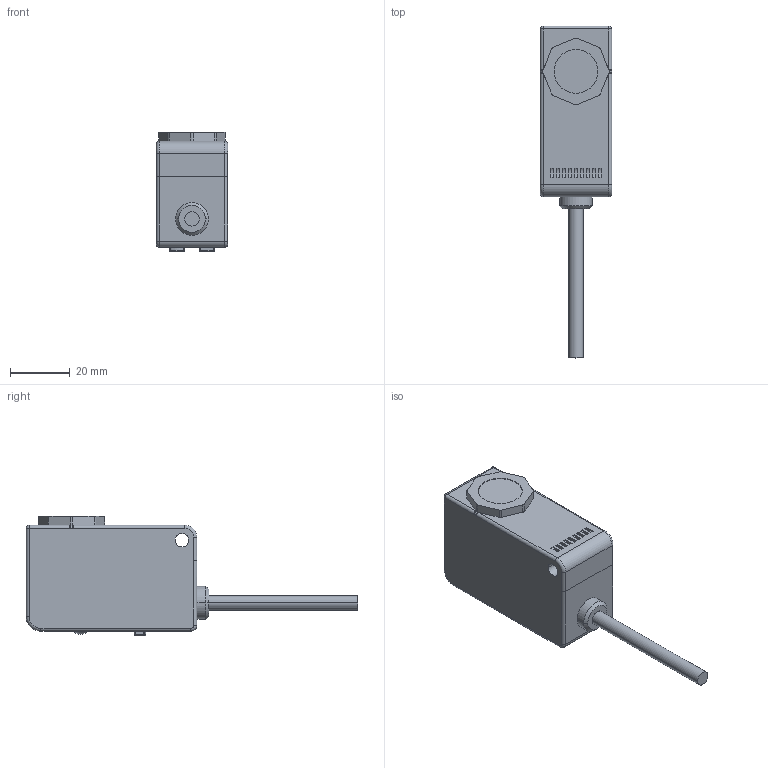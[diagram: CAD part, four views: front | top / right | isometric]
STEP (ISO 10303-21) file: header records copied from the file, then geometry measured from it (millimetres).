
FILE_DESCRIPTION((''),'2;1');
FILE_NAME('PC35','2018-06-19T',('sdl'),(''),'PRO/ENGINEER BY PARAMETRIC TECHNOLOGY CORPORATION, 2004110','PRO/ENGINEER BY PARAMETRIC TECHNOLOGY CORPORATION, 2004110','');
FILE_SCHEMA(('CONFIG_CONTROL_DESIGN'));
Length unit declared in the file: millimetre
Products named in the file (1): PC35
Bounding box: 24 x 111.23 x 40 mm (x, y, z)
Volume: 50361.3 mm3; surface area: 9726.1 mm2
Topology: 1 solids, 1 shells, 158 faces, 369 edges, 226 vertices
Faces by surface type: plane 71, cylinder 57, sphere 14, torus 8, bspline 6, cone 2
Entity records: 4661 total; most frequent: CARTESIAN_POINT 973, DIRECTION 789, ORIENTED_EDGE 730, EDGE_CURVE 365, AXIS2_PLACEMENT_3D 286, VERTEX_POINT 226, VECTOR 217, LINE 217
